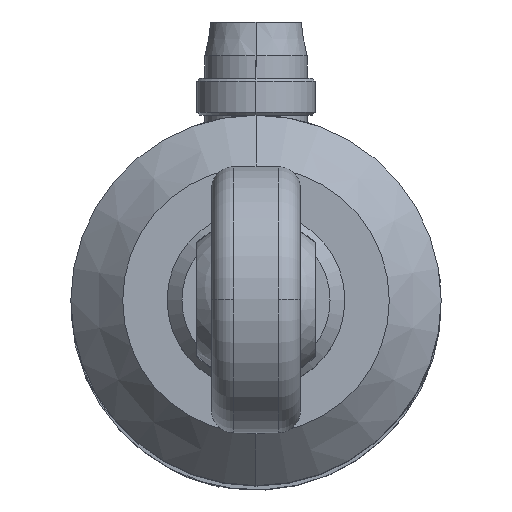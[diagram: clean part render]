
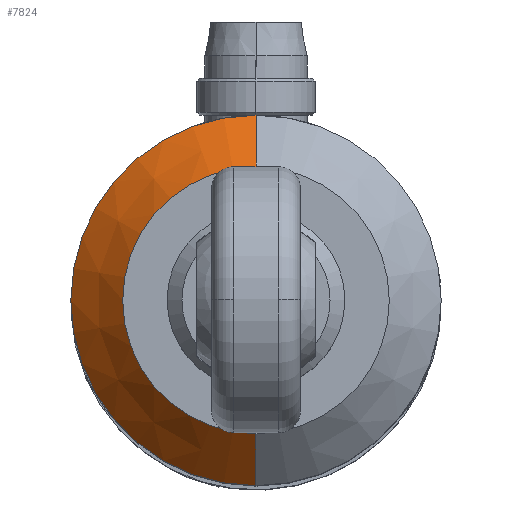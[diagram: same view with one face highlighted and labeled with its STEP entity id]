
A CAD part, top view. The second image highlights one B-rep face of the part: STEP entity #7824.
In plain terms, the highlighted conical face has half-angle 45 degrees and reference radius 12.5 mm.
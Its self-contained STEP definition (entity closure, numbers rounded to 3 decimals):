
#262 = CIRCLE ( 'NONE', #1587, 9. ) ;
#332 = LINE ( 'NONE', #2244, #7037 ) ;
#1042 = VERTEX_POINT ( 'NONE', #9221 ) ;
#1163 = VERTEX_POINT ( 'NONE', #11077 ) ;
#1250 = DIRECTION ( 'NONE',  ( 0., -0.707, -0.707 ) ) ;
#1381 = CARTESIAN_POINT ( 'NONE',  ( 0., 18.5, -12.5 ) ) ;
#1587 = AXIS2_PLACEMENT_3D ( 'NONE', #6012, #15389, #13850 ) ;
#2017 = EDGE_LOOP ( 'NONE', ( #6072, #4733, #8025, #14156 ) ) ;
#2106 = AXIS2_PLACEMENT_3D ( 'NONE', #11894, #4761, #13111 ) ;
#2244 = CARTESIAN_POINT ( 'NONE',  ( 0., 18.5, -12.5 ) ) ;
#3480 = VECTOR ( 'NONE', #3654, 1000. ) ;
#3654 = DIRECTION ( 'NONE',  ( 0., -0.707, 0.707 ) ) ;
#3767 = CARTESIAN_POINT ( 'NONE',  ( 0., 18.5, 12.5 ) ) ;
#4247 = EDGE_CURVE ( 'NONE', #1163, #13051, #332, .T. ) ;
#4733 = ORIENTED_EDGE ( 'NONE', *, *, #4782, .T. ) ;
#4761 = DIRECTION ( 'NONE',  ( 0., -1., 0. ) ) ;
#4782 = EDGE_CURVE ( 'NONE', #7498, #1042, #12999, .T. ) ;
#6012 = CARTESIAN_POINT ( 'NONE',  ( 0., 22., 0. ) ) ;
#6072 = ORIENTED_EDGE ( 'NONE', *, *, #9701, .F. ) ;
#6697 = AXIS2_PLACEMENT_3D ( 'NONE', #9576, #13692, #9955 ) ;
#7037 = VECTOR ( 'NONE', #1250, 1000. ) ;
#7498 = VERTEX_POINT ( 'NONE', #13634 ) ;
#7824 = ADVANCED_FACE ( 'NONE', ( #11669 ), #8142, .T. ) ;
#8025 = ORIENTED_EDGE ( 'NONE', *, *, #14607, .F. ) ;
#8142 = CONICAL_SURFACE ( 'NONE', #6697, 12.5, 0.785 ) ;
#9221 = CARTESIAN_POINT ( 'NONE',  ( 0., 18.5, 12.5 ) ) ;
#9576 = CARTESIAN_POINT ( 'NONE',  ( 0., 18.5, 0. ) ) ;
#9701 = EDGE_CURVE ( 'NONE', #7498, #1163, #262, .T. ) ;
#9955 = DIRECTION ( 'NONE',  ( 0., 0., -1. ) ) ;
#11077 = CARTESIAN_POINT ( 'NONE',  ( 0., 22., -9. ) ) ;
#11669 = FACE_OUTER_BOUND ( 'NONE', #2017, .T. ) ;
#11689 = CIRCLE ( 'NONE', #2106, 12.5 ) ;
#11894 = CARTESIAN_POINT ( 'NONE',  ( 0., 18.5, 0. ) ) ;
#12999 = LINE ( 'NONE', #3767, #3480 ) ;
#13051 = VERTEX_POINT ( 'NONE', #1381 ) ;
#13111 = DIRECTION ( 'NONE',  ( 0., 0., -1. ) ) ;
#13634 = CARTESIAN_POINT ( 'NONE',  ( 0., 22., 9. ) ) ;
#13692 = DIRECTION ( 'NONE',  ( 0., -1., 0. ) ) ;
#13850 = DIRECTION ( 'NONE',  ( 0., 0., -1. ) ) ;
#14156 = ORIENTED_EDGE ( 'NONE', *, *, #4247, .F. ) ;
#14607 = EDGE_CURVE ( 'NONE', #13051, #1042, #11689, .T. ) ;
#15389 = DIRECTION ( 'NONE',  ( 0., 1., 0. ) ) ;
